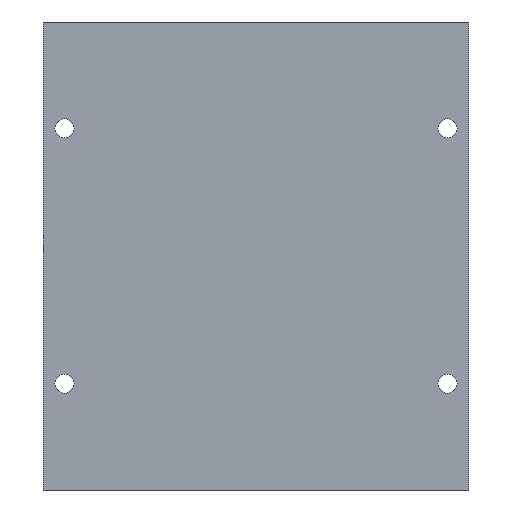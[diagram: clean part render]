
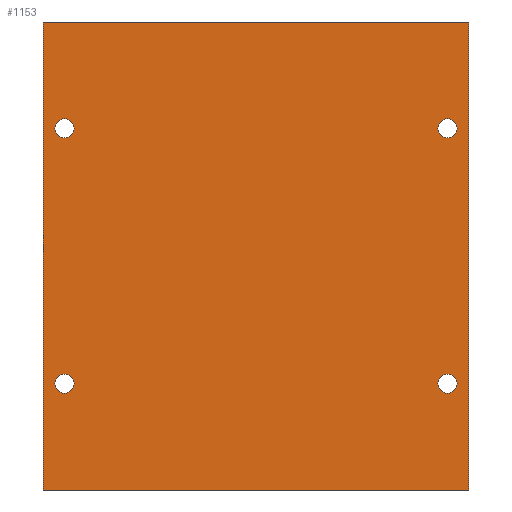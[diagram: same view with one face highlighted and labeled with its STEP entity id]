
A CAD part, front view. The second image highlights one B-rep face of the part: STEP entity #1153.
In plain terms, the highlighted planar face has unit normal (0, -1, 0).
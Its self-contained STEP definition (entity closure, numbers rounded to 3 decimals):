
#1127 = VERTEX_POINT('',#1128);
#1128 = CARTESIAN_POINT('',(-50.,-55.,0.));
#1134 = EDGE_CURVE('',#1135,#1127,#1137,.T.);
#1135 = VERTEX_POINT('',#1136);
#1136 = CARTESIAN_POINT('',(-50.,-55.,110.));
#1137 = LINE('',#1138,#1139);
#1138 = CARTESIAN_POINT('',(-50.,-55.,110.));
#1139 = VECTOR('',#1140,1.);
#1140 = DIRECTION('',(0.,0.,-1.));
#1153 = ADVANCED_FACE('',(#1154,#1174,#1194,#1214,#1234),#1259,.F.);
#1154 = FACE_BOUND('',#1155,.T.);
#1155 = EDGE_LOOP('',(#1156,#1167));
#1156 = ORIENTED_EDGE('',*,*,#1157,.T.);
#1157 = EDGE_CURVE('',#1158,#1160,#1162,.T.);
#1158 = VERTEX_POINT('',#1159);
#1159 = CARTESIAN_POINT('',(-45.,-55.,27.25));
#1160 = VERTEX_POINT('',#1161);
#1161 = CARTESIAN_POINT('',(-45.,-55.,22.75));
#1162 = CIRCLE('',#1163,2.25);
#1163 = AXIS2_PLACEMENT_3D('',#1164,#1165,#1166);
#1164 = CARTESIAN_POINT('',(-45.,-55.,25.));
#1165 = DIRECTION('',(0.,1.,0.));
#1166 = DIRECTION('',(0.,-0.,1.));
#1167 = ORIENTED_EDGE('',*,*,#1168,.T.);
#1168 = EDGE_CURVE('',#1160,#1158,#1169,.T.);
#1169 = CIRCLE('',#1170,2.25);
#1170 = AXIS2_PLACEMENT_3D('',#1171,#1172,#1173);
#1171 = CARTESIAN_POINT('',(-45.,-55.,25.));
#1172 = DIRECTION('',(0.,1.,0.));
#1173 = DIRECTION('',(0.,-0.,1.));
#1174 = FACE_BOUND('',#1175,.T.);
#1175 = EDGE_LOOP('',(#1176,#1187));
#1176 = ORIENTED_EDGE('',*,*,#1177,.T.);
#1177 = EDGE_CURVE('',#1178,#1180,#1182,.T.);
#1178 = VERTEX_POINT('',#1179);
#1179 = CARTESIAN_POINT('',(-45.,-55.,87.25));
#1180 = VERTEX_POINT('',#1181);
#1181 = CARTESIAN_POINT('',(-45.,-55.,82.75));
#1182 = CIRCLE('',#1183,2.25);
#1183 = AXIS2_PLACEMENT_3D('',#1184,#1185,#1186);
#1184 = CARTESIAN_POINT('',(-45.,-55.,85.));
#1185 = DIRECTION('',(0.,1.,0.));
#1186 = DIRECTION('',(0.,-0.,1.));
#1187 = ORIENTED_EDGE('',*,*,#1188,.T.);
#1188 = EDGE_CURVE('',#1180,#1178,#1189,.T.);
#1189 = CIRCLE('',#1190,2.25);
#1190 = AXIS2_PLACEMENT_3D('',#1191,#1192,#1193);
#1191 = CARTESIAN_POINT('',(-45.,-55.,85.));
#1192 = DIRECTION('',(0.,1.,0.));
#1193 = DIRECTION('',(0.,-0.,1.));
#1194 = FACE_BOUND('',#1195,.T.);
#1195 = EDGE_LOOP('',(#1196,#1207));
#1196 = ORIENTED_EDGE('',*,*,#1197,.T.);
#1197 = EDGE_CURVE('',#1198,#1200,#1202,.T.);
#1198 = VERTEX_POINT('',#1199);
#1199 = CARTESIAN_POINT('',(45.,-55.,87.25));
#1200 = VERTEX_POINT('',#1201);
#1201 = CARTESIAN_POINT('',(45.,-55.,82.75));
#1202 = CIRCLE('',#1203,2.25);
#1203 = AXIS2_PLACEMENT_3D('',#1204,#1205,#1206);
#1204 = CARTESIAN_POINT('',(45.,-55.,85.));
#1205 = DIRECTION('',(0.,1.,0.));
#1206 = DIRECTION('',(0.,-0.,1.));
#1207 = ORIENTED_EDGE('',*,*,#1208,.T.);
#1208 = EDGE_CURVE('',#1200,#1198,#1209,.T.);
#1209 = CIRCLE('',#1210,2.25);
#1210 = AXIS2_PLACEMENT_3D('',#1211,#1212,#1213);
#1211 = CARTESIAN_POINT('',(45.,-55.,85.));
#1212 = DIRECTION('',(0.,1.,0.));
#1213 = DIRECTION('',(0.,-0.,1.));
#1214 = FACE_BOUND('',#1215,.T.);
#1215 = EDGE_LOOP('',(#1216,#1227));
#1216 = ORIENTED_EDGE('',*,*,#1217,.T.);
#1217 = EDGE_CURVE('',#1218,#1220,#1222,.T.);
#1218 = VERTEX_POINT('',#1219);
#1219 = CARTESIAN_POINT('',(45.,-55.,27.25));
#1220 = VERTEX_POINT('',#1221);
#1221 = CARTESIAN_POINT('',(45.,-55.,22.75));
#1222 = CIRCLE('',#1223,2.25);
#1223 = AXIS2_PLACEMENT_3D('',#1224,#1225,#1226);
#1224 = CARTESIAN_POINT('',(45.,-55.,25.));
#1225 = DIRECTION('',(0.,1.,0.));
#1226 = DIRECTION('',(0.,-0.,1.));
#1227 = ORIENTED_EDGE('',*,*,#1228,.T.);
#1228 = EDGE_CURVE('',#1220,#1218,#1229,.T.);
#1229 = CIRCLE('',#1230,2.25);
#1230 = AXIS2_PLACEMENT_3D('',#1231,#1232,#1233);
#1231 = CARTESIAN_POINT('',(45.,-55.,25.));
#1232 = DIRECTION('',(0.,1.,0.));
#1233 = DIRECTION('',(0.,-0.,1.));
#1234 = FACE_BOUND('',#1235,.T.);
#1235 = EDGE_LOOP('',(#1236,#1244,#1252,#1258));
#1236 = ORIENTED_EDGE('',*,*,#1237,.T.);
#1237 = EDGE_CURVE('',#1127,#1238,#1240,.T.);
#1238 = VERTEX_POINT('',#1239);
#1239 = CARTESIAN_POINT('',(50.,-55.,0.));
#1240 = LINE('',#1241,#1242);
#1241 = CARTESIAN_POINT('',(-50.,-55.,0.));
#1242 = VECTOR('',#1243,1.);
#1243 = DIRECTION('',(1.,0.,0.));
#1244 = ORIENTED_EDGE('',*,*,#1245,.F.);
#1245 = EDGE_CURVE('',#1246,#1238,#1248,.T.);
#1246 = VERTEX_POINT('',#1247);
#1247 = CARTESIAN_POINT('',(50.,-55.,110.));
#1248 = LINE('',#1249,#1250);
#1249 = CARTESIAN_POINT('',(50.,-55.,110.));
#1250 = VECTOR('',#1251,1.);
#1251 = DIRECTION('',(0.,0.,-1.));
#1252 = ORIENTED_EDGE('',*,*,#1253,.F.);
#1253 = EDGE_CURVE('',#1135,#1246,#1254,.T.);
#1254 = LINE('',#1255,#1256);
#1255 = CARTESIAN_POINT('',(-50.,-55.,110.));
#1256 = VECTOR('',#1257,1.);
#1257 = DIRECTION('',(1.,0.,0.));
#1258 = ORIENTED_EDGE('',*,*,#1134,.T.);
#1259 = PLANE('',#1260);
#1260 = AXIS2_PLACEMENT_3D('',#1261,#1262,#1263);
#1261 = CARTESIAN_POINT('',(-50.,-55.,110.));
#1262 = DIRECTION('',(0.,1.,0.));
#1263 = DIRECTION('',(0.,-0.,1.));
